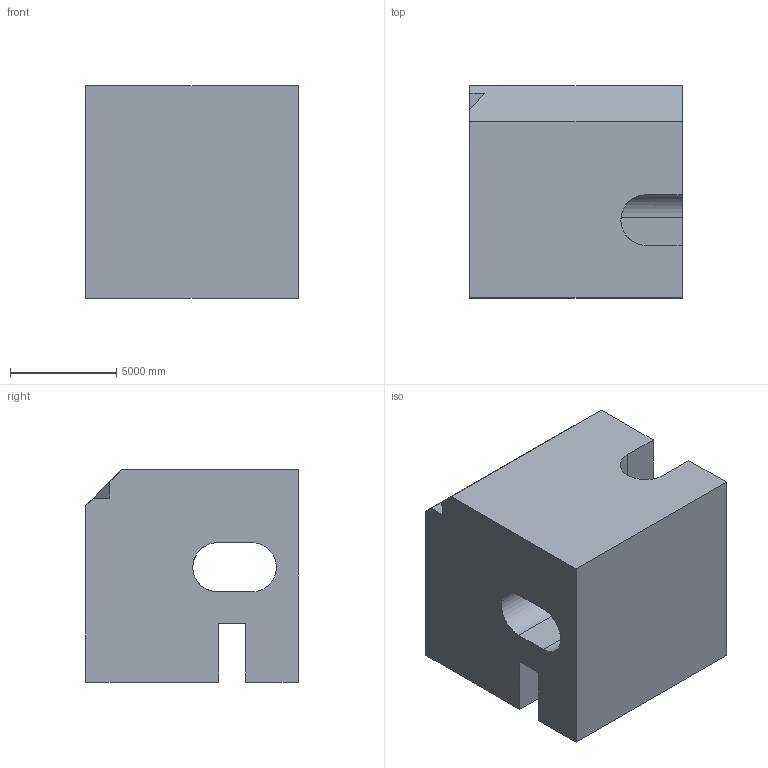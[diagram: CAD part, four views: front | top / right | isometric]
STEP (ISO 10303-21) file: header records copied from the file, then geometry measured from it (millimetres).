
FILE_DESCRIPTION (( 'STEP AP203' ), '1' );
FILE_NAME ('96.STEP', '2022-08-31T11:32:28', ( 'user' ), ( '' ), 'SwSTEP 2.0', 'SolidWorks 2021', '' );
FILE_SCHEMA (( 'CONFIG_CONTROL_DESIGN' ));
Length unit declared in the file: centimetre
Products named in the file (1): 96
Bounding box: 10000 x 10000 x 10000 mm (x, y, z)
Volume: 848602573251.5 mm3; surface area: 729470517.6 mm2
Topology: 1 solids, 1 shells, 20 faces, 57 edges, 38 vertices
Faces by surface type: plane 17, cylinder 3
Entity records: 809 total; most frequent: CARTESIAN_POINT 199, ORIENTED_EDGE 114, DIRECTION 104, EDGE_CURVE 57, LINE 50, VECTOR 50, VERTEX_POINT 38, AXIS2_PLACEMENT_3D 27
